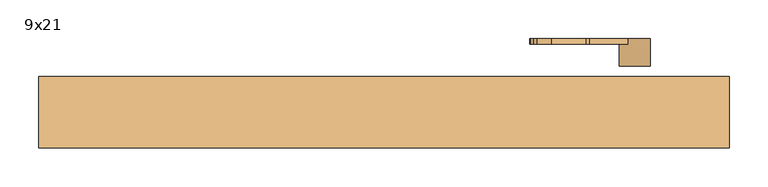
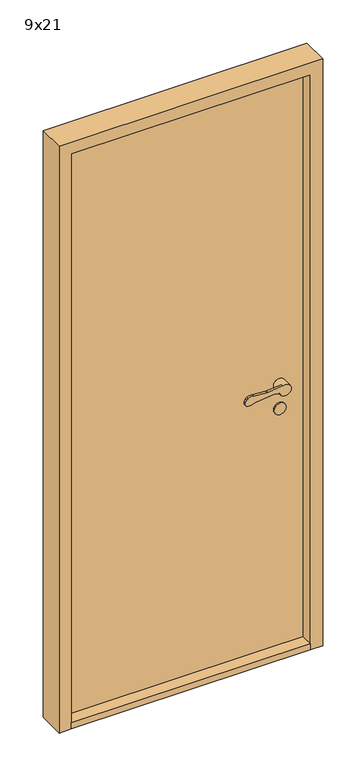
"""IFC4 building model written with IfcOpenShell, lengths in millimetres: door geometry, Innerdør Slett (Diplomat) : 9x21."""

from ifc_helpers import new_model, si_unit, point, frame, frame_2d, origin, origin_with_axes, place, context, project, spatial, polyline, circle_curve, trimmed, segment, composite_curve, outline, extrude, source, transform, mapped, element, save
from ifc_brep_helpers import plane_surface, cylinder_surface, revolved_surface, advanced_brep


def door_9x21_77222ef3(model_context):
    return source(origin(), model_context, "Body", "SolidModel", [
        advanced_brep(
        [(343.9611305, -34.0, 949.1175955), (358.3841161, -34.0, 942.6204086), (396.379633, -34.0, 951.3474568), (367.2687793, -34.0, 969.1517356), (318.6891233, -34.0, 964.26032), (313.6202158, -34.0, 964.1804415), (268.8963175, -34.0, 967.2639242), (250.3175669, -34.0, 964.8810513), (245.505009, -34.0, 959.9624074), (241.8691983, -34.0, 951.8913379), (246.721536, -34.0, 938.7393398), (276.0476109, -34.0, 943.6260011), (338.8520664, -34.0, 949.9496913), (318.6891233, -26.8915284, 964.26032), (367.2687793, -26.8915284, 969.1517356), (356.379633, -26.8915284, 951.3474568), (358.3841161, -26.8915284, 942.6204086), (343.9611305, -26.8915284, 949.1175955), (338.8520664, -26.8915284, 949.9496913), (276.0476109, -26.8915284, 943.6260011), (246.721536, -26.8915284, 938.7393398), (241.8691983, -26.8915284, 951.8913379), (245.505009, -26.8915284, 959.9624074), (250.3175669, -26.8915284, 964.8810513), (268.8963175, -26.8915284, 967.2639242), (313.6202158, -26.8915284, 964.1804415), (396.379633, 1.0, 951.3474568), (356.379633, 1.0, 951.3474568)],
        [
            (0, 1),
            (1, 2, circle_curve(frame((376.379633, -34.0, 951.3474568), z_axis=(0.0, -1.0, 0.0), x_axis=(-1.0, 0.0, 0.0)), 20.0)),
            (2, 3, circle_curve(frame((376.379633, -34.0, 951.3474568), z_axis=(0.0, -1.0, 0.0), x_axis=(-1.0, 0.0, 0.0)), 20.0)),
            (3, 4),
            (4, 5, circle_curve(frame((315.683663, -34.0, 994.1093938), z_axis=(0.0, 1.0, 0.0), x_axis=(-0.9949691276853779, 0.0, -0.10018200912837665)), 30.0)),
            (5, 6),
            (6, 7, circle_curve(frame((263.2326797, -34.0, 937.8033877), z_axis=(0.0, -1.0, 0.0), x_axis=(-0.9949691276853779, 0.0, -0.10018200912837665)), 30.0)),
            (7, 8, circle_curve(frame((254.6226045, -34.0, 955.8551634), z_axis=(0.0, -1.0, 0.0), x_axis=(-0.9949691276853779, 0.0, -0.10018200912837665)), 10.0)),
            (8, 9),
            (9, 10, circle_curve(frame((250.9867937, -34.0, 947.7840939), z_axis=(0.0, -1.0, 0.0), x_axis=(-0.9949691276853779, 0.0, -0.10018200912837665)), 10.0)),
            (10, 11, circle_curve(frame((257.8569644, -34.0, 962.352734), z_axis=(0.0, -1.0, 0.0), x_axis=(-0.9949691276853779, 0.0, -0.10018200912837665)), 26.1072815)),
            (11, 12),
            (12, 0, circle_curve(frame((339.8538865, -34.0, 940.0), z_axis=(0.0, 1.0, 0.0), x_axis=(-0.9949691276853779, 0.0, -0.10018200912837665)), 10.0)),
            (13, 14),
            (14, 15, circle_curve(frame((376.379633, -26.8915284, 951.3474568), z_axis=(0.0, -1.0, 0.0), x_axis=(-1.0, 0.0, 0.0)), 20.0)),
            (15, 16, circle_curve(frame((376.379633, -26.8915284, 951.3474568), z_axis=(0.0, -1.0, 0.0), x_axis=(-1.0, 0.0, 0.0)), 20.0)),
            (16, 17),
            (17, 18, circle_curve(frame((339.8538865, -26.8915284, 940.0), z_axis=(0.0, -1.0, 0.0), x_axis=(-0.9949691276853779, 0.0, -0.10018200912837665)), 10.0)),
            (18, 19),
            (19, 20, circle_curve(frame((257.8569644, -26.8915284, 962.352734), z_axis=(0.0, 1.0, 0.0), x_axis=(-0.9949691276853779, 0.0, -0.10018200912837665)), 26.1072815)),
            (20, 21, circle_curve(frame((250.9867937, -26.8915284, 947.7840939), z_axis=(0.0, 1.0, 0.0), x_axis=(-0.9949691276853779, 0.0, -0.10018200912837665)), 10.0)),
            (21, 22),
            (22, 23, circle_curve(frame((254.6226045, -26.8915284, 955.8551634), z_axis=(0.0, 1.0, 0.0), x_axis=(-0.9949691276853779, 0.0, -0.10018200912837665)), 10.0)),
            (23, 24, circle_curve(frame((263.2326797, -26.8915284, 937.8033877), z_axis=(0.0, 1.0, 0.0), x_axis=(-0.9949691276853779, 0.0, -0.10018200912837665)), 30.0)),
            (24, 25),
            (25, 13, circle_curve(frame((315.683663, -26.8915284, 994.1093938), z_axis=(0.0, -1.0, 0.0), x_axis=(-0.9949691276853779, 0.0, -0.10018200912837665)), 30.0)),
            (3, 14),
            (13, 4),
            (16, 1),
            (0, 17),
            (12, 18),
            (11, 19),
            (10, 20),
            (9, 21),
            (8, 22),
            (7, 23),
            (6, 24),
            (5, 25),
            (26, 27, circle_curve(frame((376.379633, 1.0, 951.3474568), z_axis=(0.0, 1.0, 0.0), x_axis=(-1.0, 0.0, 0.0)), 20.0)),
            (27, 26, circle_curve(frame((376.379633, 1.0, 951.3474568), z_axis=(0.0, 1.0, 0.0), x_axis=(-1.0, 0.0, 0.0)), 20.0)),
            (26, 2),
            (15, 27),
        ],
        [
            plane_surface(frame((367.6960588, -34.0, 969.1947577), z_axis=(0.0, -1.0000000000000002, 0.0), x_axis=(0.9949691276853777, 0.0, 0.10018200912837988))),
            plane_surface(frame((367.6960588, -26.8915284, 969.1947577), z_axis=(0.0, 1.0000000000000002, 0.0), x_axis=(-0.9949691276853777, 0.0, -0.10018200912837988))),
            plane_surface(frame((318.6891233, -34.0, 964.26032), z_axis=(-0.10018200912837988, 0.0, 0.9949691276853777), x_axis=(0.0, 1.0, 0.0))),
            plane_surface(frame((376.9687366, -34.0, 934.2485115), z_axis=(-0.41072439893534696, 0.0, -0.91175954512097), x_axis=(0.0, 1.0, 0.0))),
            revolved_surface(polyline([(329.9041952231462, -26.8915284, 938.9981799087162), (329.9041952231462, -34.0, 938.9981799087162)]), (339.8538865, -26.8915284, 940.0), (0.0, 1.0, 0.0)),
            plane_surface(frame((338.8520664, -34.0, 949.9496913), z_axis=(0.10018200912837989, 0.0, -0.9949691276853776), x_axis=(0.0, 1.0, 0.0))),
            cylinder_surface(frame((257.8569644, -26.8915284, 962.352734), z_axis=(0.0, -1.0, 0.0), x_axis=(-0.9949691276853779, 0.0, -0.10018200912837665)), 26.1072815),
            cylinder_surface(frame((250.9867937, -26.8915284, 947.7840939), z_axis=(0.0, -1.0, 0.0), x_axis=(-0.9949691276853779, 0.0, -0.10018200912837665)), 10.0),
            plane_surface(frame((241.8691983, -34.0, 951.8913379), z_axis=(-0.9117595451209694, 0.0, 0.41072439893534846), x_axis=(0.0, 1.0, 0.0))),
            cylinder_surface(frame((254.6226045, -26.8915284, 955.8551634), z_axis=(0.0, -1.0, 0.0), x_axis=(-0.9949691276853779, 0.0, -0.10018200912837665)), 10.0),
            cylinder_surface(frame((263.2326797, -26.8915284, 937.8033877), z_axis=(0.0, -1.0, 0.0), x_axis=(-0.9949691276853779, 0.0, -0.10018200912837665)), 30.0),
            plane_surface(frame((268.8963175, -34.0, 967.2639242), z_axis=(0.06878157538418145, 0.0, 0.9976317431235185), x_axis=(0.0, 1.0, 0.0))),
            revolved_surface(polyline([(285.8345891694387, -26.8915284, 991.1039335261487), (285.8345891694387, -34.0, 991.1039335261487)]), (315.683663, -26.8915284, 994.1093938), (0.0, 1.0, 0.0)),
            plane_surface(frame((356.379633, 1.0, 951.3474568), z_axis=(0.0, 1.0, 0.0), x_axis=(0.0, 0.0, -1.0))),
            cylinder_surface(frame((376.379633, 1.0, 951.3474568), z_axis=(0.0, -1.0, 0.0), x_axis=(-1.0, 0.0, 0.0)), 20.0),
        ],
        [
            (0, [[1, 2, 3, 4, 5, 6, 7, 8, 9, 10, 11, 12, 13]]),
            (1, [[14, 15, 16, 17, 18, 19, 20, 21, 22, 23, 24, 25, 26]]),
            (2, [[-4, 27, -14, 28]]),
            (3, [[-17, 29, -1, 30]]),
            (4, [[31, -18, -30, -13]]),
            (5, [[32, -19, -31, -12]]),
            (6, [[33, -20, -32, -11]]),
            (7, [[34, -21, -33, -10]]),
            (8, [[35, -22, -34, -9]]),
            (9, [[36, -23, -35, -8]]),
            (10, [[37, -24, -36, -7]]),
            (11, [[38, -25, -37, -6]]),
            (12, [[-28, -26, -38, -5]]),
            (13, [[39, 40]]),
            (14, [[41, -2, -29, -16, 42, -39]]),
            (14, [[-42, -15, -27, -3, -41, -40]]),
        ],
    ),
        extrude(outline(composite_curve([segment(trimmed(circle_curve(frame_2d((866.3474568, 376.379633)), 20.0), [point((866.3474568, 396.379633))], [point((866.3474568, 356.379633))], False, "CARTESIAN"), True, "CONTINUOUS"), segment(trimmed(circle_curve(frame_2d((866.3474568, 376.379633)), 20.0), [point((866.3474568, 356.379633))], [point((866.3474568, 396.379633))], False, "CARTESIAN"), True, "CONTINUOUS")], self_intersect=False)), frame((0.0, -4.0, 0.0), z_axis=(0.0, 1.0, 0.0), x_axis=(0.0, 0.0, 1.0)), (0.0, 0.0, 1.0), 5.0),
        advanced_brep(
        [(343.9611305, 100.0, 949.1175955), (338.8520664, 100.0, 949.9496913), (276.0476109, 100.0, 943.6260011), (246.721536, 100.0, 938.7393398), (241.8691983, 100.0, 951.8913379), (245.505009, 100.0, 959.9624074), (250.3175669, 100.0, 964.8810513), (268.8963175, 100.0, 967.2639242), (313.6202158, 100.0, 964.1804415), (318.6891233, 100.0, 964.26032), (367.2687793, 100.0, 969.1517356), (396.379633, 100.0, 951.3474568), (358.3841161, 100.0, 942.6204086), (318.6891233, 92.8915284, 964.26032), (313.6202158, 92.8915284, 964.1804415), (268.8963175, 92.8915284, 967.2639242), (250.3175669, 92.8915284, 964.8810513), (245.505009, 92.8915284, 959.9624074), (241.8691983, 92.8915284, 951.8913379), (246.721536, 92.8915284, 938.7393398), (276.0476109, 92.8915284, 943.6260011), (338.8520664, 92.8915284, 949.9496913), (343.9611305, 92.8915284, 949.1175955), (358.3841161, 92.8915284, 942.6204086), (356.379633, 92.8915284, 951.3474568), (367.2687793, 92.8915284, 969.1517356), (396.379633, 65.0, 951.3474568), (356.379633, 65.0, 951.3474568)],
        [
            (0, 1, circle_curve(frame((339.8538865, 100.0, 940.0), z_axis=(0.0, -1.0, 0.0), x_axis=(-0.9949691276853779, 0.0, -0.10018200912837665)), 10.0)),
            (1, 2),
            (2, 3, circle_curve(frame((257.8569644, 100.0, 962.352734), z_axis=(0.0, 1.0, 0.0), x_axis=(-0.9949691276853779, 0.0, -0.10018200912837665)), 26.1072815)),
            (3, 4, circle_curve(frame((250.9867937, 100.0, 947.7840939), z_axis=(0.0, 1.0, 0.0), x_axis=(-0.9949691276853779, 0.0, -0.10018200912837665)), 10.0)),
            (4, 5),
            (5, 6, circle_curve(frame((254.6226045, 100.0, 955.8551634), z_axis=(0.0, 1.0, 0.0), x_axis=(-0.9949691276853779, 0.0, -0.10018200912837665)), 10.0)),
            (6, 7, circle_curve(frame((263.2326797, 100.0, 937.8033877), z_axis=(0.0, 1.0, 0.0), x_axis=(-0.9949691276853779, 0.0, -0.10018200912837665)), 30.0)),
            (7, 8),
            (8, 9, circle_curve(frame((315.683663, 100.0, 994.1093938), z_axis=(0.0, -1.0, 0.0), x_axis=(-0.9949691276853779, 0.0, -0.10018200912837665)), 30.0)),
            (9, 10),
            (10, 11, circle_curve(frame((376.379633, 100.0, 951.3474568), z_axis=(0.0, 1.0, 0.0), x_axis=(-1.0, 0.0, 0.0)), 20.0)),
            (11, 12, circle_curve(frame((376.379633, 100.0, 951.3474568), z_axis=(0.0, 1.0, 0.0), x_axis=(-1.0, 0.0, 0.0)), 20.0)),
            (12, 0),
            (13, 14, circle_curve(frame((315.683663, 92.8915284, 994.1093938), z_axis=(0.0, 1.0, 0.0), x_axis=(-0.9949691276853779, 0.0, -0.10018200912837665)), 30.0)),
            (14, 15),
            (15, 16, circle_curve(frame((263.2326797, 92.8915284, 937.8033877), z_axis=(0.0, -1.0, 0.0), x_axis=(-0.9949691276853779, 0.0, -0.10018200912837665)), 30.0)),
            (16, 17, circle_curve(frame((254.6226045, 92.8915284, 955.8551634), z_axis=(0.0, -1.0, 0.0), x_axis=(-0.9949691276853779, 0.0, -0.10018200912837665)), 10.0)),
            (17, 18),
            (18, 19, circle_curve(frame((250.9867937, 92.8915284, 947.7840939), z_axis=(0.0, -1.0, 0.0), x_axis=(-0.9949691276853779, 0.0, -0.10018200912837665)), 10.0)),
            (19, 20, circle_curve(frame((257.8569644, 92.8915284, 962.352734), z_axis=(0.0, -1.0, 0.0), x_axis=(-0.9949691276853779, 0.0, -0.10018200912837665)), 26.1072815)),
            (20, 21),
            (21, 22, circle_curve(frame((339.8538865, 92.8915284, 940.0), z_axis=(0.0, 1.0, 0.0), x_axis=(-0.9949691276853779, 0.0, -0.10018200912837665)), 10.0)),
            (22, 23),
            (23, 24, circle_curve(frame((376.379633, 92.8915284, 951.3474568), z_axis=(0.0, 1.0, 0.0), x_axis=(-1.0, 0.0, 0.0)), 20.0)),
            (24, 25, circle_curve(frame((376.379633, 92.8915284, 951.3474568), z_axis=(0.0, 1.0, 0.0), x_axis=(-1.0, 0.0, 0.0)), 20.0)),
            (25, 13),
            (9, 13),
            (25, 10),
            (22, 0),
            (12, 23),
            (21, 1),
            (20, 2),
            (19, 3),
            (18, 4),
            (17, 5),
            (16, 6),
            (15, 7),
            (14, 8),
            (26, 27, circle_curve(frame((376.379633, 65.0, 951.3474568), z_axis=(0.0, -1.0, 0.0), x_axis=(-1.0, 0.0, 0.0)), 20.0)),
            (27, 26, circle_curve(frame((376.379633, 65.0, 951.3474568), z_axis=(0.0, -1.0, 0.0), x_axis=(-1.0, 0.0, 0.0)), 20.0)),
            (27, 24),
            (11, 26),
        ],
        [
            plane_surface(frame((367.6960588, 100.0, 969.1947577), z_axis=(0.0, 1.0000000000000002, 0.0), x_axis=(0.9949691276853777, 0.0, 0.10018200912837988))),
            plane_surface(frame((367.6960588, 92.8915284, 969.1947577), z_axis=(0.0, -1.0000000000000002, 0.0), x_axis=(-0.9949691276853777, 0.0, -0.10018200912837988))),
            plane_surface(frame((318.6891233, 100.0, 964.26032), z_axis=(-0.10018200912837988, 0.0, 0.9949691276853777), x_axis=(0.0, -1.0, 0.0))),
            plane_surface(frame((376.9687366, 100.0, 934.2485115), z_axis=(-0.41072439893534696, 0.0, -0.91175954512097), x_axis=(0.0, -1.0, 0.0))),
            revolved_surface(polyline([(329.9041952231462, 92.8915284, 938.9981799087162), (329.9041952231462, 100.0, 938.9981799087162)]), (339.8538865, 92.8915284, 940.0), (0.0, -1.0, 0.0)),
            plane_surface(frame((338.8520664, 100.0, 949.9496913), z_axis=(0.10018200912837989, 0.0, -0.9949691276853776), x_axis=(0.0, -1.0, 0.0))),
            cylinder_surface(frame((257.8569644, 92.8915284, 962.352734), z_axis=(0.0, 1.0, 0.0), x_axis=(-0.9949691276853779, 0.0, -0.10018200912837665)), 26.1072815),
            cylinder_surface(frame((250.9867937, 92.8915284, 947.7840939), z_axis=(0.0, 1.0, 0.0), x_axis=(-0.9949691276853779, 0.0, -0.10018200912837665)), 10.0),
            plane_surface(frame((241.8691983, 100.0, 951.8913379), z_axis=(-0.9117595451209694, 0.0, 0.41072439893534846), x_axis=(0.0, -1.0, 0.0))),
            cylinder_surface(frame((254.6226045, 92.8915284, 955.8551634), z_axis=(0.0, 1.0, 0.0), x_axis=(-0.9949691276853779, 0.0, -0.10018200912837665)), 10.0),
            cylinder_surface(frame((263.2326797, 92.8915284, 937.8033877), z_axis=(0.0, 1.0, 0.0), x_axis=(-0.9949691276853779, 0.0, -0.10018200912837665)), 30.0),
            plane_surface(frame((268.8963175, 100.0, 967.2639242), z_axis=(0.06878157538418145, 0.0, 0.9976317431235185), x_axis=(0.0, -1.0, 0.0))),
            revolved_surface(polyline([(285.8345891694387, 92.8915284, 991.1039335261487), (285.8345891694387, 100.0, 991.1039335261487)]), (315.683663, 92.8915284, 994.1093938), (0.0, -1.0, 0.0)),
            plane_surface(frame((356.379633, 65.0, 951.3474568), z_axis=(0.0, -1.0, 0.0), x_axis=(0.0, 0.0, -1.0))),
            cylinder_surface(frame((376.379633, 65.0, 951.3474568), z_axis=(0.0, 1.0, 0.0), x_axis=(-1.0, 0.0, 0.0)), 20.0),
        ],
        [
            (0, [[1, 2, 3, 4, 5, 6, 7, 8, 9, 10, 11, 12, 13]]),
            (1, [[14, 15, 16, 17, 18, 19, 20, 21, 22, 23, 24, 25, 26]]),
            (2, [[27, -26, 28, -10]]),
            (3, [[29, -13, 30, -23]]),
            (4, [[-1, -29, -22, 31]]),
            (5, [[-2, -31, -21, 32]]),
            (6, [[-3, -32, -20, 33]]),
            (7, [[-4, -33, -19, 34]]),
            (8, [[-5, -34, -18, 35]]),
            (9, [[-6, -35, -17, 36]]),
            (10, [[-7, -36, -16, 37]]),
            (11, [[-8, -37, -15, 38]]),
            (12, [[-9, -38, -14, -27]]),
            (13, [[39, 40]]),
            (14, [[-40, 41, -24, -30, -12, 42]]),
            (14, [[-39, -42, -11, -28, -25, -41]]),
        ],
    ),
        extrude(outline(composite_curve([segment(trimmed(circle_curve(frame_2d((866.3474568, 376.379633)), 20.0), [point((866.3474568, 396.379633))], [point((866.3474568, 356.379633))], False, "CARTESIAN"), True, "CONTINUOUS"), segment(trimmed(circle_curve(frame_2d((866.3474568, 376.379633)), 20.0), [point((866.3474568, 356.379633))], [point((866.3474568, 396.379633))], False, "CARTESIAN"), True, "CONTINUOUS")], self_intersect=False)), frame((0.0, 65.0, 0.0), z_axis=(0.0, 1.0, 0.0), x_axis=(0.0, 0.0, 1.0)), (0.0, 0.0, 1.0), 5.0),
        extrude(outline(polyline([(456.379633, -41.0), (-349.620367, -41.0), (-349.620367, 51.0), (456.379633, 51.0), (456.379633, -41.0)])), origin_with_axes(), (0.0, 0.0, 1.0), 22.0),
        extrude(outline(polyline([(456.379633, 1.0), (-349.620367, 1.0), (-349.620367, 51.0), (456.379633, 51.0), (456.379633, 1.0)])), frame((0.0, 0.0, 22.0), z_axis=(0.0, 0.0, 1.0), x_axis=(1.0, 0.0, 0.0)), (0.0, 0.0, 1.0), 2031.0),
        extrude(outline(polyline([(0.0, -391.620367), (0.0, -349.620367), (2053.0, -349.620367), (2053.0, 456.379633), (0.0, 456.379633), (0.0, 498.379633), (2095.0, 498.379633), (2095.0, -391.620367), (0.0, -391.620367)])), frame((0.0, -41.0, 0.0), z_axis=(0.0, 1.0, 0.0), x_axis=(0.0, 0.0, 1.0)), (0.0, 0.0, 1.0), 92.0),
    ])


if __name__ == "__main__":
    model = new_model("IFC4")
    model_context = context("Model", 3, world=origin())
    ifc_project = project(units=[si_unit("LENGTHUNIT", "METRE", prefix="MILLI")], contexts=[model_context])
    site = spatial("IfcSite", under=ifc_project)
    building = spatial("IfcBuilding", under=site)
    placement = place(None, origin())
    door_9x21_shape = door_9x21_77222ef3(model_context)
    element("IfcDoor", 1, ObjectType="Innerdør Slett (Diplomat) : 9x21", at=placement, inside=building, context=model_context, shape_type="MappedRepresentation", body=[
        mapped(door_9x21_shape, transform((0.0, 0.0, 0.0), x_axis=(1.0, 0.0, 0.0), y_axis=(0.0, 1.0, 0.0), z_axis=(0.0, 0.0, 1.0))),
    ])
    save(model, "model.ifc")
